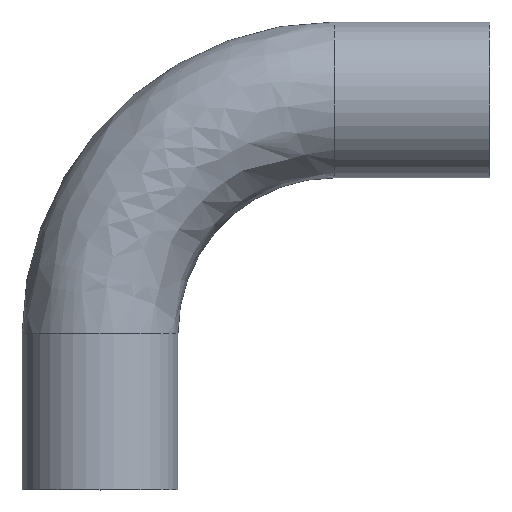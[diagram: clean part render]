
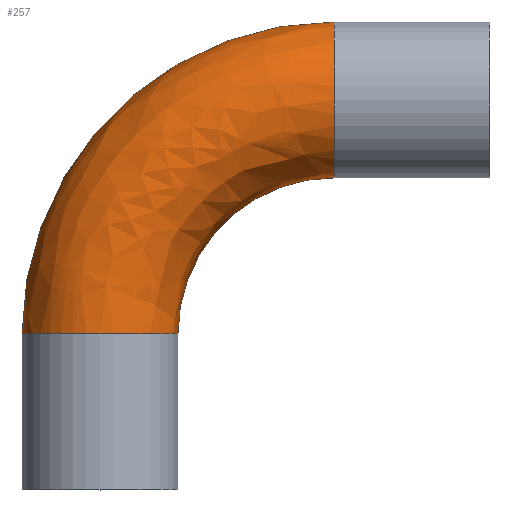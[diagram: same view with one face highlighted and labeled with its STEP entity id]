
A CAD part, top view. The second image highlights one B-rep face of the part: STEP entity #257.
In plain terms, the highlighted free-form (B-spline) face has degree [3, 3] with [4, 4] control points.
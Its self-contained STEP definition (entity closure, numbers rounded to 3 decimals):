
#2 = CARTESIAN_POINT ( 'NONE',  ( 57.2, 38.1, 0. ) ) ;
#3 = CARTESIAN_POINT ( 'NONE',  ( 0., 38.1, 0. ) ) ;
#8 = CARTESIAN_POINT ( 'NONE',  ( 34.852, 76.25, 38.1 ) ) ;
#13 = CARTESIAN_POINT ( 'NONE',  ( 19.05, 38.1, 38.1 ) ) ;
#37 = ORIENTED_EDGE ( 'NONE', *, *, #333, .T. ) ;
#58 = DIRECTION ( 'NONE',  ( 0., 1., 0. ) ) ;
#70 = ORIENTED_EDGE ( 'NONE', *, *, #451, .T. ) ;
#72 = AXIS2_PLACEMENT_3D ( 'NONE', #336, #254, #204 ) ;
#94 = CARTESIAN_POINT ( 'NONE',  ( 57.2, 95.3, 0. ) ) ;
#102 = AXIS2_PLACEMENT_3D ( 'NONE', #2, #210, #410 ) ;
#103 = CARTESIAN_POINT ( 'NONE',  ( 57.2, 114.35, 0. ) ) ;
#104 = CARTESIAN_POINT ( 'NONE',  ( 19.05, 60.448, 0. ) ) ;
#115 = AXIS2_PLACEMENT_3D ( 'NONE', #3, #401, #316 ) ;
#118 = CARTESIAN_POINT ( 'NONE',  ( -19.05, 38.1, 0. ) ) ;
#123 = CIRCLE ( 'NONE', #115, 19.05 ) ;
#124 = AXIS2_PLACEMENT_3D ( 'NONE', #94, #373, #58 ) ;
#131 = CARTESIAN_POINT ( 'NONE',  ( 19.05, 60.448, 38.1 ) ) ;
#142 = CARTESIAN_POINT ( 'NONE',  ( 19.05, 38.1, 0. ) ) ;
#165 = CARTESIAN_POINT ( 'NONE',  ( 19.05, 38.1, 0. ) ) ;
#183 = EDGE_CURVE ( 'NONE', #231, #448, #307, .T. ) ;
#190 = CARTESIAN_POINT ( 'NONE',  ( 12.534, 114.35, 0. ) ) ;
#194 = FACE_OUTER_BOUND ( 'NONE', #245, .T. ) ;
#204 = DIRECTION ( 'NONE',  ( -1., 0., 0. ) ) ;
#210 = DIRECTION ( 'NONE',  ( 0., 0., -1. ) ) ;
#231 = VERTEX_POINT ( 'NONE', #118 ) ;
#235 = EDGE_CURVE ( 'NONE', #371, #448, #382, .T. ) ;
#245 = EDGE_LOOP ( 'NONE', ( #70, #37, #255, #303 ) ) ;
#246 = CARTESIAN_POINT ( 'NONE',  ( -19.05, 82.766, 38.1 ) ) ;
#254 = DIRECTION ( 'NONE',  ( 0., 0., -1. ) ) ;
#255 = ORIENTED_EDGE ( 'NONE', *, *, #235, .T. ) ;
#257 = ADVANCED_FACE ( 'NONE', ( #194 ), #406, .T. ) ;
#266 = CARTESIAN_POINT ( 'NONE',  ( 34.852, 76.25, 0. ) ) ;
#271 = CARTESIAN_POINT ( 'NONE',  ( 57.2, 114.35, 0. ) ) ;
#272 = CARTESIAN_POINT ( 'NONE',  ( -19.05, 38.1, 38.1 ) ) ;
#288 = CARTESIAN_POINT ( 'NONE',  ( 57.2, 76.25, 38.1 ) ) ;
#289 = VERTEX_POINT ( 'NONE', #142 ) ;
#302 = CARTESIAN_POINT ( 'NONE',  ( 57.2, 76.25, 0. ) ) ;
#303 = ORIENTED_EDGE ( 'NONE', *, *, #183, .F. ) ;
#307 = CIRCLE ( 'NONE', #72, 76.25 ) ;
#316 = DIRECTION ( 'NONE',  ( -1., 0., 0. ) ) ;
#326 = CARTESIAN_POINT ( 'NONE',  ( 12.534, 114.35, 38.1 ) ) ;
#332 = CIRCLE ( 'NONE', #102, 38.15 ) ;
#333 = EDGE_CURVE ( 'NONE', #289, #371, #332, .T. ) ;
#336 = CARTESIAN_POINT ( 'NONE',  ( 57.2, 38.1, 0. ) ) ;
#350 = CARTESIAN_POINT ( 'NONE',  ( 57.2, 114.35, 38.1 ) ) ;
#371 = VERTEX_POINT ( 'NONE', #302 ) ;
#373 = DIRECTION ( 'NONE',  ( -1., 0., 0. ) ) ;
#382 = CIRCLE ( 'NONE', #124, 19.05 ) ;
#401 = DIRECTION ( 'NONE',  ( 0., 1., 0. ) ) ;
#404 = CARTESIAN_POINT ( 'NONE',  ( -19.05, 82.766, 0. ) ) ;
#406 =( BOUNDED_SURFACE ( )  B_SPLINE_SURFACE ( 3, 3, ( 
 ( #437, #404, #190, #103 ),
 ( #272, #246, #326, #350 ),
 ( #13, #131, #8, #288 ),
 ( #165, #104, #266, #449 ) ),
 .UNSPECIFIED., .F., .F., .F. ) 
 B_SPLINE_SURFACE_WITH_KNOTS ( ( 4, 4 ),
 ( 4, 4 ),
 ( 0., 1. ),
 ( 0., 1. ),
 .UNSPECIFIED. ) 
 GEOMETRIC_REPRESENTATION_ITEM ( )  RATIONAL_B_SPLINE_SURFACE ( (
 ( 1., 0.805, 0.805, 1.),
 ( 0.333, 0.268, 0.268, 0.333),
 ( 0.333, 0.268, 0.268, 0.333),
 ( 1., 0.805, 0.805, 1.) ) ) 
 REPRESENTATION_ITEM ( '' )  SURFACE ( )  );
#410 = DIRECTION ( 'NONE',  ( -1., 0., 0. ) ) ;
#437 = CARTESIAN_POINT ( 'NONE',  ( -19.05, 38.1, 0. ) ) ;
#448 = VERTEX_POINT ( 'NONE', #271 ) ;
#449 = CARTESIAN_POINT ( 'NONE',  ( 57.2, 76.25, 0. ) ) ;
#451 = EDGE_CURVE ( 'NONE', #231, #289, #123, .T. ) ;
